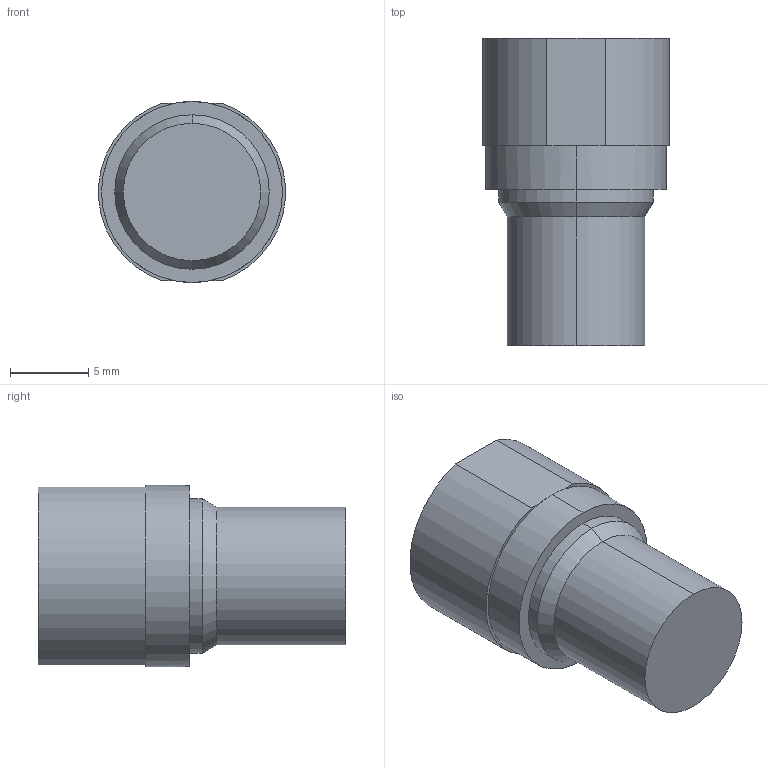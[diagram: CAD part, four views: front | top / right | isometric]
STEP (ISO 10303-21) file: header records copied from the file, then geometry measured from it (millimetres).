
FILE_DESCRIPTION (( 'STEP AP214' ), '1' );
FILE_NAME ('Spreizduebel O760611400.STEP', '2010-09-16T14:28:40', ( 'grass' ), ( '' ), 'SwSTEP 2.0', 'SolidWorks 2010', '' );
FILE_SCHEMA (( 'AUTOMOTIVE_DESIGN' ));
Length unit declared in the file: millimetre
Products named in the file (1): Spreizduebel O760611400
Bounding box: 11.96 x 19.7 x 11.6 mm (x, y, z)
Volume: 1694.6 mm3; surface area: 854.1 mm2
Topology: 1 solids, 1 shells, 19 faces, 40 edges, 24 vertices
Faces by surface type: plane 9, cylinder 8, cone 2
Entity records: 544 total; most frequent: DIRECTION 100, CARTESIAN_POINT 84, ORIENTED_EDGE 80, AXIS2_PLACEMENT_3D 40, EDGE_CURVE 40, VERTEX_POINT 24, EDGE_LOOP 20, VECTOR 20
